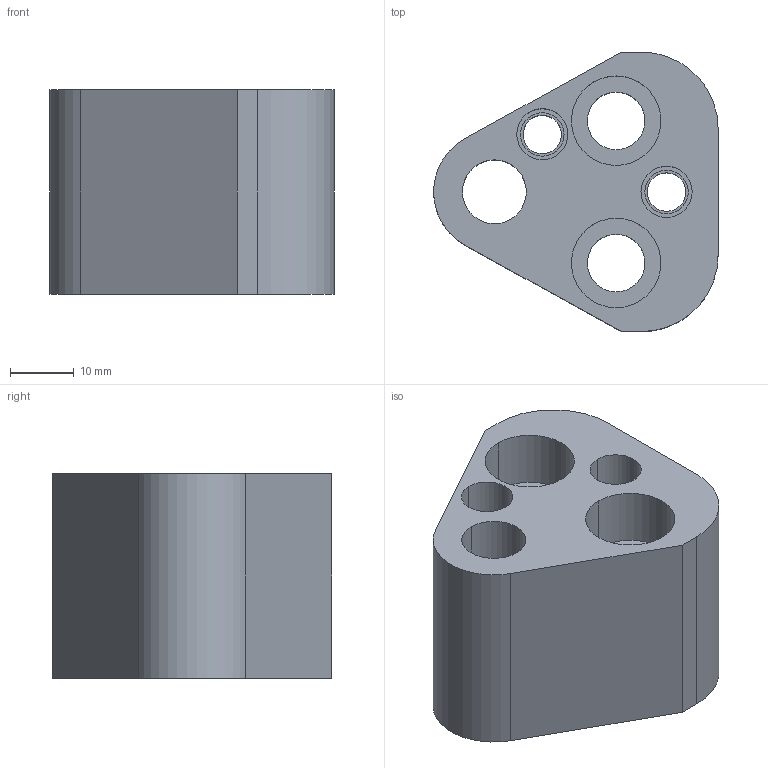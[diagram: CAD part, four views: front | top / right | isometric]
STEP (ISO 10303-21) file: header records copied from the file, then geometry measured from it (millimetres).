
FILE_DESCRIPTION(/* description */ (''),/* implementation_level */ '2;1');
FILE_NAME(/* name */ '3d_crn-a10_03614_r00.stp',/* time_stamp */ '2011-01-10T14:16:25+09:00',/* author */ ('MISUMI'),/* organization */ (''),/* preprocessor_version */ 'ST-DEVELOPER v11',/* originating_system */ 'UGS - NX 5.0',/* authorisation */ '');
FILE_SCHEMA (('CONFIG_CONTROL_DESIGN'));
Length unit declared in the file: millimetre
Products named in the file (1): 3d_crn-a10_03614_r00
Bounding box: 44.47 x 43.7 x 32 mm (x, y, z)
Volume: 33556.1 mm3; surface area: 11324.9 mm2
Topology: 1 solids, 1 shells, 41 faces, 96 edges, 64 vertices
Faces by surface type: cylinder 27, plane 14
Entity records: 1310 total; most frequent: DIRECTION 234, CARTESIAN_POINT 202, ORIENTED_EDGE 192, EDGE_CURVE 96, AXIS2_PLACEMENT_3D 96, VERTEX_POINT 64, EDGE_LOOP 58, CIRCLE 54
